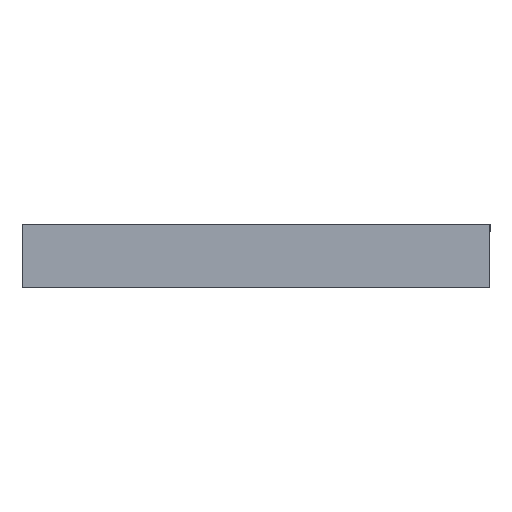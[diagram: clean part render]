
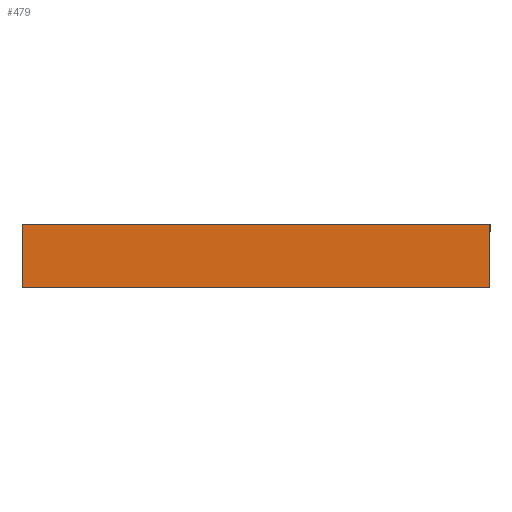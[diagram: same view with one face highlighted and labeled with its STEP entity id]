
A CAD part, left-side view. The second image highlights one B-rep face of the part: STEP entity #479.
In plain terms, the highlighted planar face has unit normal (-1, 0, 0).
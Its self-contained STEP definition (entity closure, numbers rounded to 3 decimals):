
#16 = EDGE_CURVE ( 'NONE', #825, #828, #271, .T. ) ;
#60 = EDGE_CURVE ( 'NONE', #739, #756, #206, .T. ) ;
#77 = EDGE_CURVE ( 'NONE', #825, #739, #173, .T. ) ;
#85 = EDGE_CURVE ( 'NONE', #828, #756, #159, .T. ) ;
#101 = AXIS2_PLACEMENT_3D ( 'NONE', #564, #556, #555 ) ;
#107 = FACE_OUTER_BOUND ( 'NONE', #283, .T. ) ;
#158 = VECTOR ( 'NONE', #709, 1000. ) ;
#159 = LINE ( 'NONE', #711, #158 ) ;
#172 = VECTOR ( 'NONE', #726, 1000. ) ;
#173 = LINE ( 'NONE', #728, #172 ) ;
#205 = VECTOR ( 'NONE', #771, 1000. ) ;
#206 = LINE ( 'NONE', #773, #205 ) ;
#266 = VECTOR ( 'NONE', #640, 1000. ) ;
#271 = LINE ( 'NONE', #648, #266 ) ;
#283 = EDGE_LOOP ( 'NONE', ( #380, #381, #382, #383 ) ) ;
#380 = ORIENTED_EDGE ( 'NONE', *, *, #60, .T. ) ;
#381 = ORIENTED_EDGE ( 'NONE', *, *, #85, .F. ) ;
#382 = ORIENTED_EDGE ( 'NONE', *, *, #16, .F. ) ;
#383 = ORIENTED_EDGE ( 'NONE', *, *, #77, .T. ) ;
#479 = ADVANCED_FACE ( 'NONE', ( #107 ), #567, .F. ) ;
#509 = CARTESIAN_POINT ( 'NONE',  ( -300., 0., 65. ) ) ;
#510 = CARTESIAN_POINT ( 'NONE',  ( -300., 479., 65. ) ) ;
#534 = CARTESIAN_POINT ( 'NONE',  ( -300., 0., 0. ) ) ;
#540 = CARTESIAN_POINT ( 'NONE',  ( -300., 479., 0. ) ) ;
#555 = DIRECTION ( 'NONE',  ( 0., 1., 0. ) ) ;
#556 = DIRECTION ( 'NONE',  ( 1., 0., 0. ) ) ;
#564 = CARTESIAN_POINT ( 'NONE',  ( -300., 0., 65. ) ) ;
#567 = PLANE ( 'NONE',  #101 ) ;
#640 = DIRECTION ( 'NONE',  ( 0., -1., 0. ) ) ;
#648 = CARTESIAN_POINT ( 'NONE',  ( -300., 0., 65. ) ) ;
#709 = DIRECTION ( 'NONE',  ( 0., 0., -1. ) ) ;
#711 = CARTESIAN_POINT ( 'NONE',  ( -300., 0., 65. ) ) ;
#726 = DIRECTION ( 'NONE',  ( 0., 0., -1. ) ) ;
#728 = CARTESIAN_POINT ( 'NONE',  ( -300., 479., 65. ) ) ;
#739 = VERTEX_POINT ( 'NONE', #540 ) ;
#756 = VERTEX_POINT ( 'NONE', #534 ) ;
#771 = DIRECTION ( 'NONE',  ( 0., -1., 0. ) ) ;
#773 = CARTESIAN_POINT ( 'NONE',  ( -300., 0., 0. ) ) ;
#825 = VERTEX_POINT ( 'NONE', #510 ) ;
#828 = VERTEX_POINT ( 'NONE', #509 ) ;
